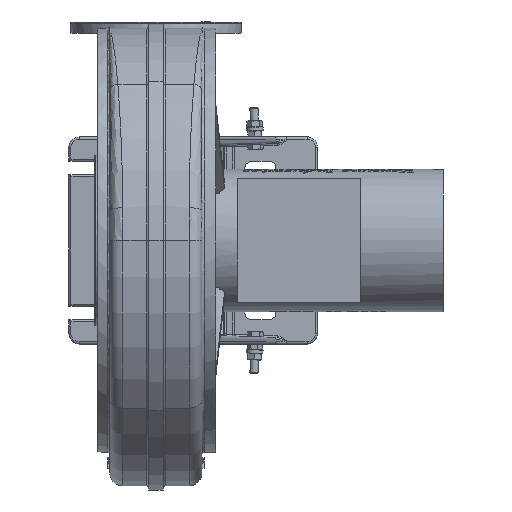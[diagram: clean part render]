
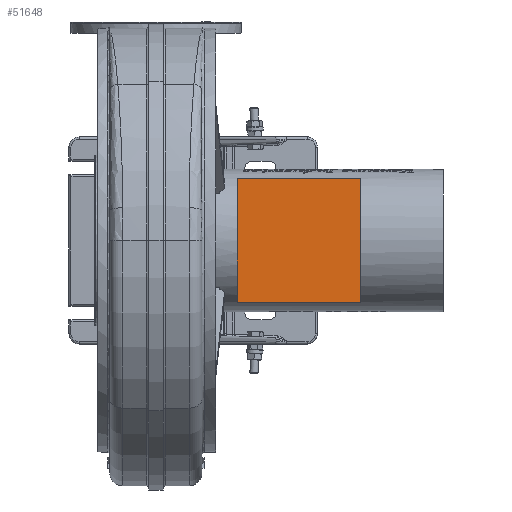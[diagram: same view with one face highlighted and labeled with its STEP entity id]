
A CAD part, left-side view. The second image highlights one B-rep face of the part: STEP entity #51648.
In plain terms, the highlighted planar face has unit normal (-1, 0, 0).
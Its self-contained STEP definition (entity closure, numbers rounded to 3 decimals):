
#3905=LINE('',#90723,#8508);
#3908=LINE('',#90728,#8511);
#3909=LINE('',#90731,#8512);
#3911=LINE('',#90734,#8514);
#8508=VECTOR('',#60865,10.);
#8511=VECTOR('',#60870,10.);
#8512=VECTOR('',#60873,10.);
#8514=VECTOR('',#60877,10.);
#16141=FACE_OUTER_BOUND('',#19149,.T.);
#19149=EDGE_LOOP('',(#41546,#41547,#41548,#41549));
#24602=VERTEX_POINT('',#90720);
#24603=VERTEX_POINT('',#90722);
#24604=VERTEX_POINT('',#90726);
#24605=VERTEX_POINT('',#90730);
#30617=EDGE_CURVE('',#24603,#24602,#3905,.T.);
#30620=EDGE_CURVE('',#24602,#24604,#3908,.T.);
#30621=EDGE_CURVE('',#24605,#24603,#3909,.T.);
#30623=EDGE_CURVE('',#24604,#24605,#3911,.T.);
#41546=ORIENTED_EDGE('',*,*,#30623,.T.);
#41547=ORIENTED_EDGE('',*,*,#30621,.T.);
#41548=ORIENTED_EDGE('',*,*,#30617,.T.);
#41549=ORIENTED_EDGE('',*,*,#30620,.T.);
#49536=PLANE('',#54159);
#51648=ADVANCED_FACE('',(#16141),#49536,.T.);
#54159=AXIS2_PLACEMENT_3D('',#90735,#60878,#60879);
#60865=DIRECTION('',(0.,1.,0.));
#60870=DIRECTION('',(0.,0.,-1.));
#60873=DIRECTION('',(0.,0.,1.));
#60877=DIRECTION('',(0.,-1.,0.));
#60878=DIRECTION('center_axis',(-1.,0.,0.));
#60879=DIRECTION('ref_axis',(0.,0.,1.));
#90720=CARTESIAN_POINT('',(-152.,-31.77,59.483));
#90722=CARTESIAN_POINT('',(-152.,-150.735,59.483));
#90723=CARTESIAN_POINT('',(-152.,-150.735,59.483));
#90726=CARTESIAN_POINT('',(-152.,-31.77,-59.483));
#90728=CARTESIAN_POINT('',(-152.,-31.77,59.483));
#90730=CARTESIAN_POINT('',(-152.,-150.735,-59.483));
#90731=CARTESIAN_POINT('',(-152.,-150.735,-59.483));
#90734=CARTESIAN_POINT('',(-152.,-31.77,-59.483));
#90735=CARTESIAN_POINT('Origin',(-152.,-91.253,0.));
